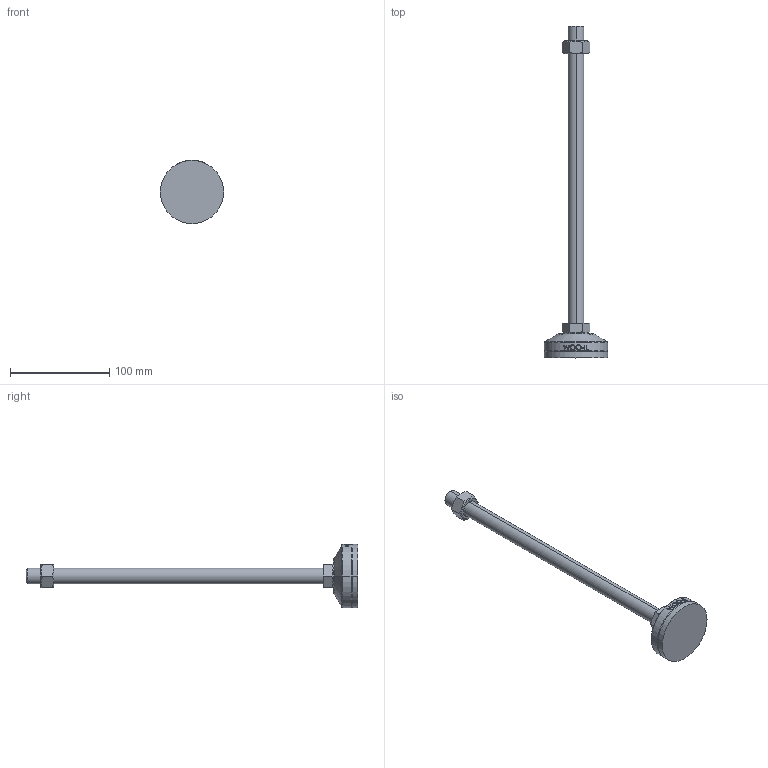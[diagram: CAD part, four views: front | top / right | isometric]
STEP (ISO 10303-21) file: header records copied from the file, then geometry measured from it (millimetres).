
FILE_DESCRIPTION (( 'STEP AP214' ), '1' );
FILE_NAME ('MFR64-M16-300.step', '2021-01-13T05:37:08', ( '' ), ( '' ), 'SwSTEP 2.0', 'SolidWorks 2019', '' );
FILE_SCHEMA (( 'AUTOMOTIVE_DESIGN' ));
Length unit declared in the file: millimetre
Products named in the file (2): MFR64-M16-300
Bounding box: 64 x 335 x 64 mm (x, y, z)
Volume: 137797.2 mm3; surface area: 35496.6 mm2
Topology: 4 solids, 4 shells, 103 faces, 235 edges, 150 vertices
Faces by surface type: plane 49, cylinder 18, bspline 16, cone 14, torus 6
Entity records: 4393 total; most frequent: CARTESIAN_POINT 2120, ORIENTED_EDGE 470, DIRECTION 417, EDGE_CURVE 235, AXIS2_PLACEMENT_3D 159, VERTEX_POINT 150, EDGE_LOOP 115, FACE_OUTER_BOUND 103
